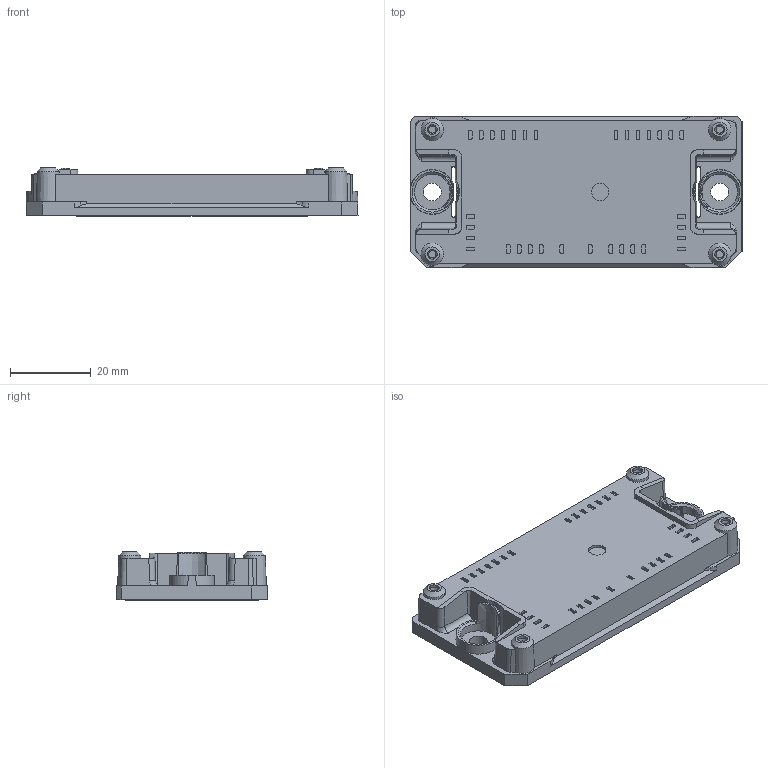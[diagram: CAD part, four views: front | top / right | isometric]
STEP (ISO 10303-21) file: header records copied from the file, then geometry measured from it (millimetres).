
FILE_DESCRIPTION(/* description */ ('Unknown'),/* implementation_level */ '2;1');
FILE_NAME(/* name */ 'Flow1-4T12ZC-LJ50(320)-01-OL',/* time_stamp */ '2026-08-10T09:27:22+02:00',/* author */ ('Unknown'),/* organization */ ('Unknown'),/* preprocessor_version */ 'ST-DEVELOPER v20',/* originating_system */ 'Solid Edge',/* authorisation */ 'Unknown');
FILE_SCHEMA (('AUTOMOTIVE_DESIGN {1 0 10303 214 3 1 1}'));
Length unit declared in the file: millimetre
Products named in the file (1): Flow1-4T12ZC-LJ50-OL
Bounding box: 82 x 37.4 x 12 mm (x, y, z)
Volume: 25852.6 mm3; surface area: 10967.2 mm2
Topology: 1 solids, 1 shells, 748 faces, 2079 edges, 1369 vertices
Faces by surface type: plane 372, cylinder 185, bspline 145, cone 34, sphere 8, torus 4
Full cylindrical faces by diameter (mm): 2.4 x4, 4.3 x1, 4.4 x2
Entity records: 32346 total; most frequent: CARTESIAN_POINT 9304, ORIENTED_EDGE 4060, DIRECTION 3256, EDGE_CURVE 2030, VERTEX_POINT 1354, LINE 1088, VECTOR 1088, AXIS2_PLACEMENT_3D 1084
